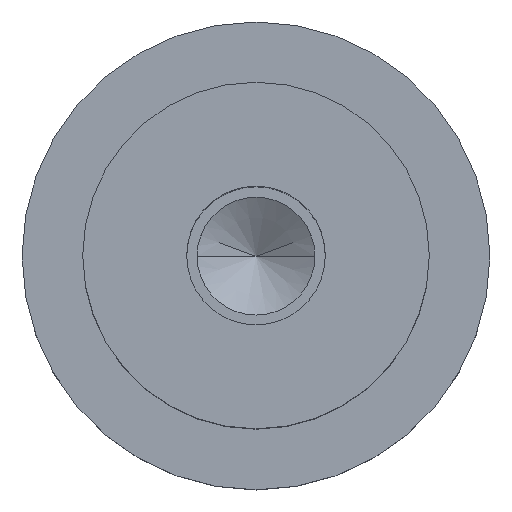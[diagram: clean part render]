
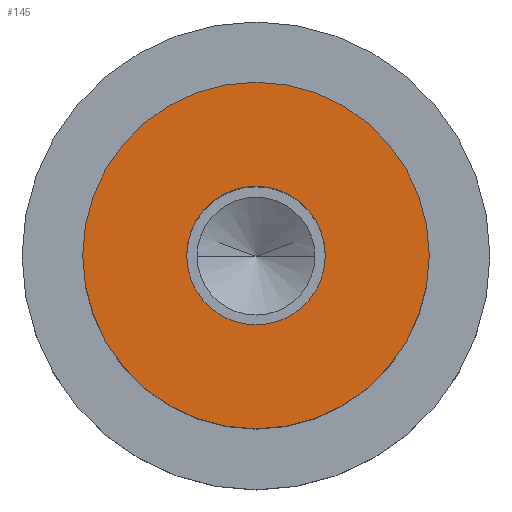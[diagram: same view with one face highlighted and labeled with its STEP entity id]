
A CAD part, top view. The second image highlights one B-rep face of the part: STEP entity #145.
In plain terms, the highlighted planar face has unit normal (0, 0, 1).
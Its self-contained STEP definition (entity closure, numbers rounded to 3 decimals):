
#100=PLANE('',#553);
#108=FACE_BOUND('',#205,.T.);
#109=FACE_BOUND('',#206,.T.);
#145=ADVANCED_FACE('',(#108,#109),#100,.T.);
#205=EDGE_LOOP('',(#299,#300));
#206=EDGE_LOOP('',(#301,#302));
#241=CIRCLE('',#547,4.);
#242=CIRCLE('',#549,4.);
#243=CIRCLE('',#551,10.);
#244=CIRCLE('',#552,10.);
#299=ORIENTED_EDGE('',*,*,#445,.F.);
#300=ORIENTED_EDGE('',*,*,#446,.F.);
#301=ORIENTED_EDGE('',*,*,#444,.T.);
#302=ORIENTED_EDGE('',*,*,#442,.T.);
#400=VERTEX_POINT('',#791);
#401=VERTEX_POINT('',#793);
#402=VERTEX_POINT('',#799);
#403=VERTEX_POINT('',#800);
#442=EDGE_CURVE('',#401,#400,#241,.T.);
#444=EDGE_CURVE('',#400,#401,#242,.T.);
#445=EDGE_CURVE('',#402,#403,#243,.T.);
#446=EDGE_CURVE('',#403,#402,#244,.T.);
#547=AXIS2_PLACEMENT_3D('',#792,#634,#635);
#549=AXIS2_PLACEMENT_3D('',#796,#639,#640);
#551=AXIS2_PLACEMENT_3D('',#798,#643,#644);
#552=AXIS2_PLACEMENT_3D('',#801,#645,#646);
#553=AXIS2_PLACEMENT_3D('',#802,#647,#648);
#634=DIRECTION('',(0.,0.,-1.));
#635=DIRECTION('',(0.,1.,0.));
#639=DIRECTION('',(0.,0.,-1.));
#640=DIRECTION('',(0.,-1.,0.));
#643=DIRECTION('',(0.,0.,-1.));
#644=DIRECTION('',(0.,1.,0.));
#645=DIRECTION('',(0.,0.,-1.));
#646=DIRECTION('',(0.,-1.,0.));
#647=DIRECTION('',(0.,0.,1.));
#648=DIRECTION('',(0.,-1.,0.));
#791=CARTESIAN_POINT('',(-4.,0.,13.));
#792=CARTESIAN_POINT('',(0.,0.,13.));
#793=CARTESIAN_POINT('',(4.,0.,13.));
#796=CARTESIAN_POINT('',(0.,0.,13.));
#798=CARTESIAN_POINT('',(0.,0.,13.));
#799=CARTESIAN_POINT('',(10.,0.,13.));
#800=CARTESIAN_POINT('',(-10.,0.,13.));
#801=CARTESIAN_POINT('',(0.,0.,13.));
#802=CARTESIAN_POINT('',(0.,0.,13.));
